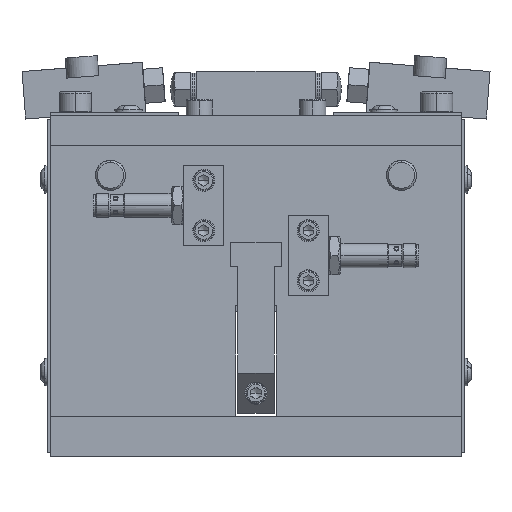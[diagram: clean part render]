
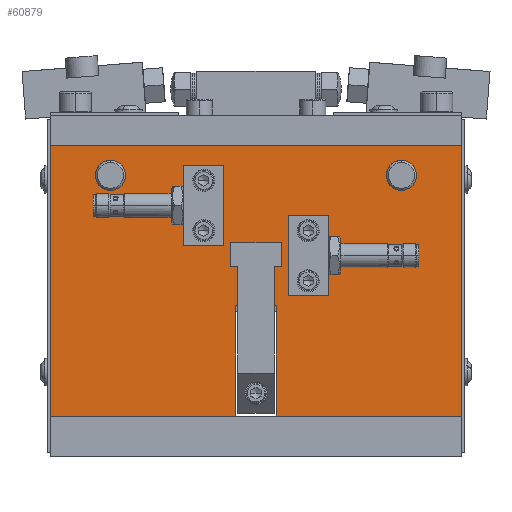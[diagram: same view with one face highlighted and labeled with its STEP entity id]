
A CAD part, front view. The second image highlights one B-rep face of the part: STEP entity #60879.
In plain terms, the highlighted planar face has unit normal (0, -1, 0).
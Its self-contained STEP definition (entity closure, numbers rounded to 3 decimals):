
#60703=AXIS2_PLACEMENT_3D('Plane Axis2P3D',#60700,#60701,#60702) ;
#60773=AXIS2_PLACEMENT_3D('Circle Axis2P3D',#60771,#60772,$) ;
#60782=AXIS2_PLACEMENT_3D('Circle Axis2P3D',#60780,#60781,$) ;
#60791=AXIS2_PLACEMENT_3D('Circle Axis2P3D',#60789,#60790,$) ;
#60800=AXIS2_PLACEMENT_3D('Circle Axis2P3D',#60798,#60799,$) ;
#60809=AXIS2_PLACEMENT_3D('Circle Axis2P3D',#60807,#60808,$) ;
#60818=AXIS2_PLACEMENT_3D('Circle Axis2P3D',#60816,#60817,$) ;
#60827=AXIS2_PLACEMENT_3D('Circle Axis2P3D',#60825,#60826,$) ;
#60836=AXIS2_PLACEMENT_3D('Circle Axis2P3D',#60834,#60835,$) ;
#60845=AXIS2_PLACEMENT_3D('Circle Axis2P3D',#60843,#60844,$) ;
#60854=AXIS2_PLACEMENT_3D('Circle Axis2P3D',#60852,#60853,$) ;
#60863=AXIS2_PLACEMENT_3D('Circle Axis2P3D',#60861,#60862,$) ;
#60872=AXIS2_PLACEMENT_3D('Circle Axis2P3D',#60870,#60871,$) ;
#60700=CARTESIAN_POINT('Axis2P3D Location',(0.,-65.,-150.)) ;
#60705=CARTESIAN_POINT('Line Origine',(56.25,-65.,-150.)) ;
#60709=CARTESIAN_POINT('Vertex',(102.5,-65.,-150.)) ;
#60711=CARTESIAN_POINT('Vertex',(10.,-65.,-150.)) ;
#60714=CARTESIAN_POINT('Line Origine',(102.5,-65.,-82.5)) ;
#60718=CARTESIAN_POINT('Vertex',(102.5,-65.,-15.)) ;
#60721=CARTESIAN_POINT('Line Origine',(0.,-65.,-15.)) ;
#60725=CARTESIAN_POINT('Vertex',(-102.5,-65.,-15.)) ;
#60728=CARTESIAN_POINT('Line Origine',(-102.5,-65.,-82.5)) ;
#60732=CARTESIAN_POINT('Vertex',(-102.5,-65.,-150.)) ;
#60735=CARTESIAN_POINT('Line Origine',(-56.25,-65.,-150.)) ;
#60739=CARTESIAN_POINT('Vertex',(-10.,-65.,-150.)) ;
#60742=CARTESIAN_POINT('Line Origine',(-10.,-65.,-122.5)) ;
#60746=CARTESIAN_POINT('Vertex',(-10.,-65.,-95.)) ;
#60749=CARTESIAN_POINT('Line Origine',(0.,-65.,-95.)) ;
#60753=CARTESIAN_POINT('Vertex',(10.,-65.,-95.)) ;
#60756=CARTESIAN_POINT('Line Origine',(10.,-65.,-122.5)) ;
#60771=CARTESIAN_POINT('Axis2P3D Location',(26.,-65.,-82.5)) ;
#60775=CARTESIAN_POINT('Vertex',(24.821,-65.,-84.658)) ;
#60777=CARTESIAN_POINT('Vertex',(27.179,-65.,-80.342)) ;
#60780=CARTESIAN_POINT('Axis2P3D Location',(26.,-65.,-82.5)) ;
#60789=CARTESIAN_POINT('Axis2P3D Location',(26.,-65.,-57.5)) ;
#60793=CARTESIAN_POINT('Vertex',(24.821,-65.,-59.658)) ;
#60795=CARTESIAN_POINT('Vertex',(27.179,-65.,-55.342)) ;
#60798=CARTESIAN_POINT('Axis2P3D Location',(26.,-65.,-57.5)) ;
#60807=CARTESIAN_POINT('Axis2P3D Location',(-26.,-65.,-57.5)) ;
#60811=CARTESIAN_POINT('Vertex',(-27.179,-65.,-59.658)) ;
#60813=CARTESIAN_POINT('Vertex',(-24.821,-65.,-55.342)) ;
#60816=CARTESIAN_POINT('Axis2P3D Location',(-26.,-65.,-57.5)) ;
#60825=CARTESIAN_POINT('Axis2P3D Location',(-26.,-65.,-32.5)) ;
#60829=CARTESIAN_POINT('Vertex',(-27.179,-65.,-34.658)) ;
#60831=CARTESIAN_POINT('Vertex',(-24.821,-65.,-30.342)) ;
#60834=CARTESIAN_POINT('Axis2P3D Location',(-26.,-65.,-32.5)) ;
#60843=CARTESIAN_POINT('Axis2P3D Location',(-72.5,-65.,-30.)) ;
#60847=CARTESIAN_POINT('Vertex',(-76.096,-65.,-36.582)) ;
#60849=CARTESIAN_POINT('Vertex',(-68.904,-65.,-23.418)) ;
#60852=CARTESIAN_POINT('Axis2P3D Location',(-72.5,-65.,-30.)) ;
#60861=CARTESIAN_POINT('Axis2P3D Location',(72.5,-65.,-30.)) ;
#60865=CARTESIAN_POINT('Vertex',(68.904,-65.,-36.582)) ;
#60867=CARTESIAN_POINT('Vertex',(76.096,-65.,-23.418)) ;
#60870=CARTESIAN_POINT('Axis2P3D Location',(72.5,-65.,-30.)) ;
#60701=DIRECTION('Axis2P3D Direction',(0.,-1.,0.)) ;
#60702=DIRECTION('Axis2P3D XDirection',(0.,0.,1.)) ;
#60706=DIRECTION('Vector Direction',(-1.,0.,0.)) ;
#60715=DIRECTION('Vector Direction',(0.,0.,1.)) ;
#60722=DIRECTION('Vector Direction',(-1.,0.,0.)) ;
#60729=DIRECTION('Vector Direction',(0.,0.,1.)) ;
#60736=DIRECTION('Vector Direction',(-1.,0.,0.)) ;
#60743=DIRECTION('Vector Direction',(0.,0.,1.)) ;
#60750=DIRECTION('Vector Direction',(-1.,0.,0.)) ;
#60757=DIRECTION('Vector Direction',(0.,0.,-1.)) ;
#60772=DIRECTION('Axis2P3D Direction',(0.,-1.,0.)) ;
#60781=DIRECTION('Axis2P3D Direction',(0.,-1.,0.)) ;
#60790=DIRECTION('Axis2P3D Direction',(0.,-1.,0.)) ;
#60799=DIRECTION('Axis2P3D Direction',(0.,-1.,0.)) ;
#60808=DIRECTION('Axis2P3D Direction',(0.,-1.,0.)) ;
#60817=DIRECTION('Axis2P3D Direction',(0.,-1.,0.)) ;
#60826=DIRECTION('Axis2P3D Direction',(0.,-1.,0.)) ;
#60835=DIRECTION('Axis2P3D Direction',(0.,-1.,0.)) ;
#60844=DIRECTION('Axis2P3D Direction',(0.,-1.,0.)) ;
#60853=DIRECTION('Axis2P3D Direction',(0.,-1.,0.)) ;
#60862=DIRECTION('Axis2P3D Direction',(0.,-1.,0.)) ;
#60871=DIRECTION('Axis2P3D Direction',(0.,-1.,0.)) ;
#60707=VECTOR('Line Direction',#60706,1.) ;
#60716=VECTOR('Line Direction',#60715,1.) ;
#60723=VECTOR('Line Direction',#60722,1.) ;
#60730=VECTOR('Line Direction',#60729,1.) ;
#60737=VECTOR('Line Direction',#60736,1.) ;
#60744=VECTOR('Line Direction',#60743,1.) ;
#60751=VECTOR('Line Direction',#60750,1.) ;
#60758=VECTOR('Line Direction',#60757,1.) ;
#60762=ORIENTED_EDGE('',*,*,#60713,.F.) ;
#60763=ORIENTED_EDGE('',*,*,#60720,.T.) ;
#60764=ORIENTED_EDGE('',*,*,#60727,.T.) ;
#60765=ORIENTED_EDGE('',*,*,#60734,.F.) ;
#60766=ORIENTED_EDGE('',*,*,#60741,.F.) ;
#60767=ORIENTED_EDGE('',*,*,#60748,.F.) ;
#60768=ORIENTED_EDGE('',*,*,#60755,.F.) ;
#60769=ORIENTED_EDGE('',*,*,#60760,.F.) ;
#60786=ORIENTED_EDGE('',*,*,#60779,.F.) ;
#60787=ORIENTED_EDGE('',*,*,#60784,.F.) ;
#60804=ORIENTED_EDGE('',*,*,#60797,.F.) ;
#60805=ORIENTED_EDGE('',*,*,#60802,.F.) ;
#60822=ORIENTED_EDGE('',*,*,#60815,.F.) ;
#60823=ORIENTED_EDGE('',*,*,#60820,.F.) ;
#60840=ORIENTED_EDGE('',*,*,#60833,.F.) ;
#60841=ORIENTED_EDGE('',*,*,#60838,.F.) ;
#60858=ORIENTED_EDGE('',*,*,#60851,.F.) ;
#60859=ORIENTED_EDGE('',*,*,#60856,.F.) ;
#60876=ORIENTED_EDGE('',*,*,#60869,.F.) ;
#60877=ORIENTED_EDGE('',*,*,#60874,.F.) ;
#60788=FACE_BOUND('',#60785,.T.) ;
#60806=FACE_BOUND('',#60803,.T.) ;
#60824=FACE_BOUND('',#60821,.T.) ;
#60842=FACE_BOUND('',#60839,.T.) ;
#60860=FACE_BOUND('',#60857,.T.) ;
#60878=FACE_BOUND('',#60875,.T.) ;
#60879=ADVANCED_FACE('IK009-1-017.1\\PartBody',(#60770,#60788,#60806,#60824,#60842,#60860,#60878),#60704,.T.) ;
#60774=CIRCLE('generated circle',#60773,2.459) ;
#60783=CIRCLE('generated circle',#60782,2.459) ;
#60792=CIRCLE('generated circle',#60791,2.459) ;
#60801=CIRCLE('generated circle',#60800,2.459) ;
#60810=CIRCLE('generated circle',#60809,2.459) ;
#60819=CIRCLE('generated circle',#60818,2.459) ;
#60828=CIRCLE('generated circle',#60827,2.459) ;
#60837=CIRCLE('generated circle',#60836,2.459) ;
#60846=CIRCLE('generated circle',#60845,7.5) ;
#60855=CIRCLE('generated circle',#60854,7.5) ;
#60864=CIRCLE('generated circle',#60863,7.5) ;
#60873=CIRCLE('generated circle',#60872,7.5) ;
#60713=EDGE_CURVE('',#60710,#60712,#60708,.T.) ;
#60720=EDGE_CURVE('',#60710,#60719,#60717,.T.) ;
#60727=EDGE_CURVE('',#60719,#60726,#60724,.T.) ;
#60734=EDGE_CURVE('',#60733,#60726,#60731,.T.) ;
#60741=EDGE_CURVE('',#60740,#60733,#60738,.T.) ;
#60748=EDGE_CURVE('',#60747,#60740,#60745,.F.) ;
#60755=EDGE_CURVE('',#60754,#60747,#60752,.T.) ;
#60760=EDGE_CURVE('',#60712,#60754,#60759,.F.) ;
#60779=EDGE_CURVE('',#60776,#60778,#60774,.T.) ;
#60784=EDGE_CURVE('',#60778,#60776,#60783,.T.) ;
#60797=EDGE_CURVE('',#60794,#60796,#60792,.T.) ;
#60802=EDGE_CURVE('',#60796,#60794,#60801,.T.) ;
#60815=EDGE_CURVE('',#60812,#60814,#60810,.T.) ;
#60820=EDGE_CURVE('',#60814,#60812,#60819,.T.) ;
#60833=EDGE_CURVE('',#60830,#60832,#60828,.T.) ;
#60838=EDGE_CURVE('',#60832,#60830,#60837,.T.) ;
#60851=EDGE_CURVE('',#60848,#60850,#60846,.T.) ;
#60856=EDGE_CURVE('',#60850,#60848,#60855,.T.) ;
#60869=EDGE_CURVE('',#60866,#60868,#60864,.T.) ;
#60874=EDGE_CURVE('',#60868,#60866,#60873,.T.) ;
#60761=EDGE_LOOP('',(#60762,#60763,#60764,#60765,#60766,#60767,#60768,#60769)) ;
#60785=EDGE_LOOP('',(#60786,#60787)) ;
#60803=EDGE_LOOP('',(#60804,#60805)) ;
#60821=EDGE_LOOP('',(#60822,#60823)) ;
#60839=EDGE_LOOP('',(#60840,#60841)) ;
#60857=EDGE_LOOP('',(#60858,#60859)) ;
#60875=EDGE_LOOP('',(#60876,#60877)) ;
#60770=FACE_OUTER_BOUND('',#60761,.T.) ;
#60708=LINE('Line',#60705,#60707) ;
#60717=LINE('Line',#60714,#60716) ;
#60724=LINE('Line',#60721,#60723) ;
#60731=LINE('Line',#60728,#60730) ;
#60738=LINE('Line',#60735,#60737) ;
#60745=LINE('Line',#60742,#60744) ;
#60752=LINE('Line',#60749,#60751) ;
#60759=LINE('Line',#60756,#60758) ;
#60704=PLANE('Plane',#60703) ;
#60710=VERTEX_POINT('',#60709) ;
#60712=VERTEX_POINT('',#60711) ;
#60719=VERTEX_POINT('',#60718) ;
#60726=VERTEX_POINT('',#60725) ;
#60733=VERTEX_POINT('',#60732) ;
#60740=VERTEX_POINT('',#60739) ;
#60747=VERTEX_POINT('',#60746) ;
#60754=VERTEX_POINT('',#60753) ;
#60776=VERTEX_POINT('',#60775) ;
#60778=VERTEX_POINT('',#60777) ;
#60794=VERTEX_POINT('',#60793) ;
#60796=VERTEX_POINT('',#60795) ;
#60812=VERTEX_POINT('',#60811) ;
#60814=VERTEX_POINT('',#60813) ;
#60830=VERTEX_POINT('',#60829) ;
#60832=VERTEX_POINT('',#60831) ;
#60848=VERTEX_POINT('',#60847) ;
#60850=VERTEX_POINT('',#60849) ;
#60866=VERTEX_POINT('',#60865) ;
#60868=VERTEX_POINT('',#60867) ;
